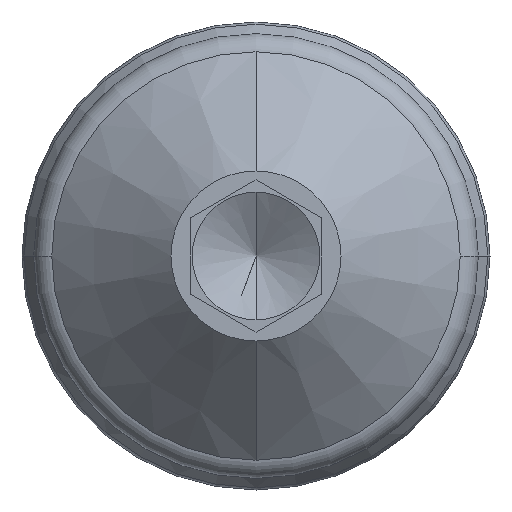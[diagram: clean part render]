
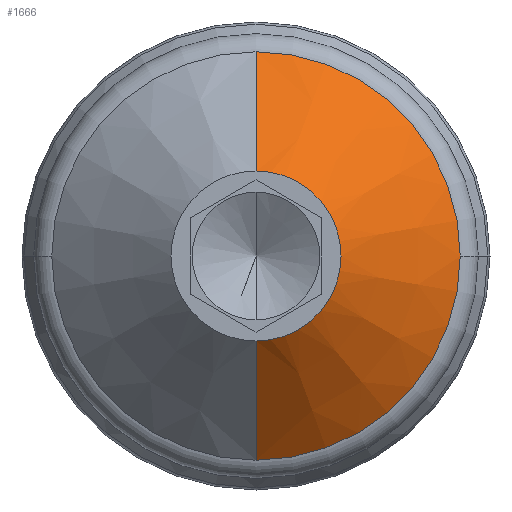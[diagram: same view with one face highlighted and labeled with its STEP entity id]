
A CAD part, front view. The second image highlights one B-rep face of the part: STEP entity #1666.
In plain terms, the highlighted conical face has half-angle 47 degrees and reference radius 9.6 mm.
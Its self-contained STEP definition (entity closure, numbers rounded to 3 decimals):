
#106 = CONICAL_SURFACE ( 'NONE', #2077, 9.6, 0.82 ) ;
#408 = EDGE_CURVE ( 'NONE', #1740, #6252, #5389, .T. ) ;
#799 = CARTESIAN_POINT ( 'NONE',  ( 0., 0., 0. ) ) ;
#872 = ORIENTED_EDGE ( 'NONE', *, *, #7151, .T. ) ;
#1199 = CARTESIAN_POINT ( 'NONE',  ( 0., 5.222, -9.6 ) ) ;
#1316 = ORIENTED_EDGE ( 'NONE', *, *, #7002, .F. ) ;
#1345 = DIRECTION ( 'NONE',  ( 0., 0., 1. ) ) ;
#1500 = VERTEX_POINT ( 'NONE', #6484 ) ;
#1666 = ADVANCED_FACE ( 'NONE', ( #4770 ), #106, .T. ) ;
#1740 = VERTEX_POINT ( 'NONE', #4350 ) ;
#2077 = AXIS2_PLACEMENT_3D ( 'NONE', #4722, #4837, #7836 ) ;
#3007 = VERTEX_POINT ( 'NONE', #3913 ) ;
#3468 = CARTESIAN_POINT ( 'NONE',  ( 0., 5.222, -9.6 ) ) ;
#3689 = AXIS2_PLACEMENT_3D ( 'NONE', #799, #6777, #1345 ) ;
#3801 = VECTOR ( 'NONE', #7360, 1000. ) ;
#3913 = CARTESIAN_POINT ( 'NONE',  ( 0., 0., 4. ) ) ;
#3969 = CARTESIAN_POINT ( 'NONE',  ( 0., 5.222, 0. ) ) ;
#4061 = ORIENTED_EDGE ( 'NONE', *, *, #408, .F. ) ;
#4103 = LINE ( 'NONE', #1199, #3801 ) ;
#4350 = CARTESIAN_POINT ( 'NONE',  ( 0., 5.222, 9.6 ) ) ;
#4555 = DIRECTION ( 'NONE',  ( 0., 0., 1. ) ) ;
#4722 = CARTESIAN_POINT ( 'NONE',  ( 0., 5.222, 0. ) ) ;
#4770 = FACE_OUTER_BOUND ( 'NONE', #6740, .T. ) ;
#4837 = DIRECTION ( 'NONE',  ( 0., 1., 0. ) ) ;
#5241 = LINE ( 'NONE', #5422, #6776 ) ;
#5258 = DIRECTION ( 'NONE',  ( 0., 1., 0. ) ) ;
#5389 = CIRCLE ( 'NONE', #7696, 9.6 ) ;
#5422 = CARTESIAN_POINT ( 'NONE',  ( 0., 5.222, 9.6 ) ) ;
#5714 = EDGE_CURVE ( 'NONE', #3007, #1500, #5759, .T. ) ;
#5759 = CIRCLE ( 'NONE', #3689, 4. ) ;
#6252 = VERTEX_POINT ( 'NONE', #3468 ) ;
#6484 = CARTESIAN_POINT ( 'NONE',  ( 0., 0., -4. ) ) ;
#6599 = DIRECTION ( 'NONE',  ( 0., 0.682, 0.731 ) ) ;
#6740 = EDGE_LOOP ( 'NONE', ( #6970, #872, #4061, #1316 ) ) ;
#6776 = VECTOR ( 'NONE', #6599, 1000. ) ;
#6777 = DIRECTION ( 'NONE',  ( 0., 1., 0. ) ) ;
#6970 = ORIENTED_EDGE ( 'NONE', *, *, #5714, .T. ) ;
#7002 = EDGE_CURVE ( 'NONE', #3007, #1740, #5241, .T. ) ;
#7151 = EDGE_CURVE ( 'NONE', #1500, #6252, #4103, .T. ) ;
#7360 = DIRECTION ( 'NONE',  ( 0., 0.682, -0.731 ) ) ;
#7696 = AXIS2_PLACEMENT_3D ( 'NONE', #3969, #5258, #4555 ) ;
#7836 = DIRECTION ( 'NONE',  ( 0., 0., 1. ) ) ;
